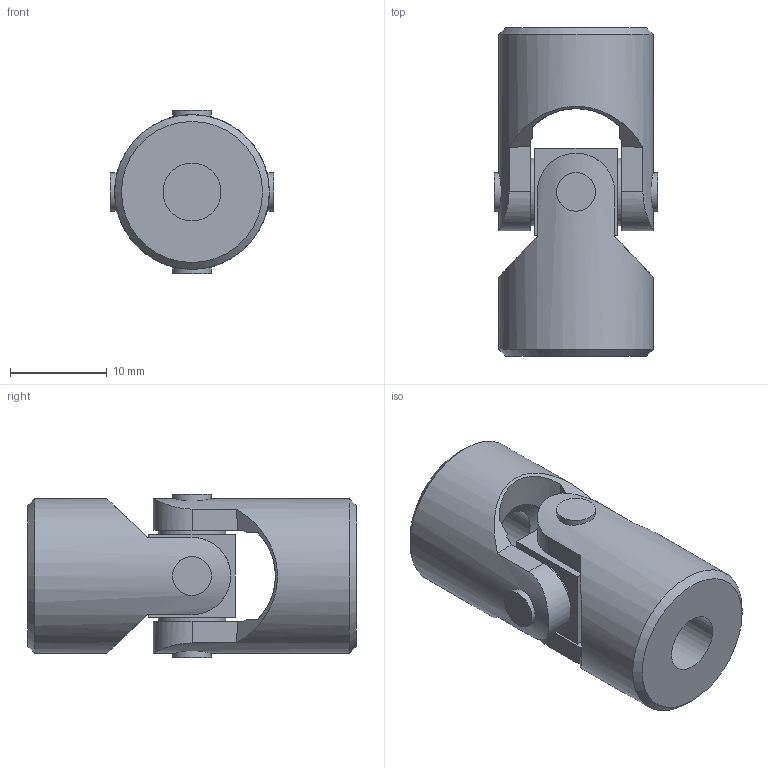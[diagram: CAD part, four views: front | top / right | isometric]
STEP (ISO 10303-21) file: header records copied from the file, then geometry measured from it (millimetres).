
FILE_DESCRIPTION(/* description */ ('EXTENSIBLE TRANSIMISSIONS Series G DIN 808 -2-'),/* implementation_level */ '2;1');
FILE_NAME(/* name */ '\\SRV2016\societa\Stefano\Disegni 3D\0Catalogo 3D\13Singoli X\Ø16_01X_SX0S0600.stp',/* time_stamp */ '2023-05-12T15:50:27+02:00',/* author */ ('acquisti'),/* organization */ ('MARIOFERRI'),/* preprocessor_version */ 'ST-DEVELOPER v15.6',/* originating_system */ 'Autodesk Inventor 2015',/* authorisation */ '');
FILE_SCHEMA (('AUTOMOTIVE_DESIGN { 1 0 10303 214 3 1 1 }'));
Length unit declared in the file: millimetre
Products named in the file (3): 01-02X SFE; 01X MOS; Ø16_01X_SX0S0600
Assembly tree (3 placements, depth 2):
  Ø16_01X_SX0S0600
    01-02X SFE
    01X MOS  x2
Bounding box: 16.9 x 34 x 16.9 mm (x, y, z)
Volume: 4879 mm3; surface area: 3321.3 mm2
Topology: 3 solids, 3 shells, 64 faces, 160 edges, 108 vertices
Faces by surface type: plane 32, cylinder 18, cone 12, torus 2
Full cylindrical faces by diameter (mm): 4 x4, 6 x2, 7 x4, 8.5 x2, 16 x2
Entity records: 1283 total; most frequent: CARTESIAN_POINT 410, DIRECTION 168, ORIENTED_EDGE 152, EDGE_CURVE 76, AXIS2_PLACEMENT_3D 72, EDGE_LOOP 58, VERTEX_POINT 58, FACE_OUTER_BOUND 39
